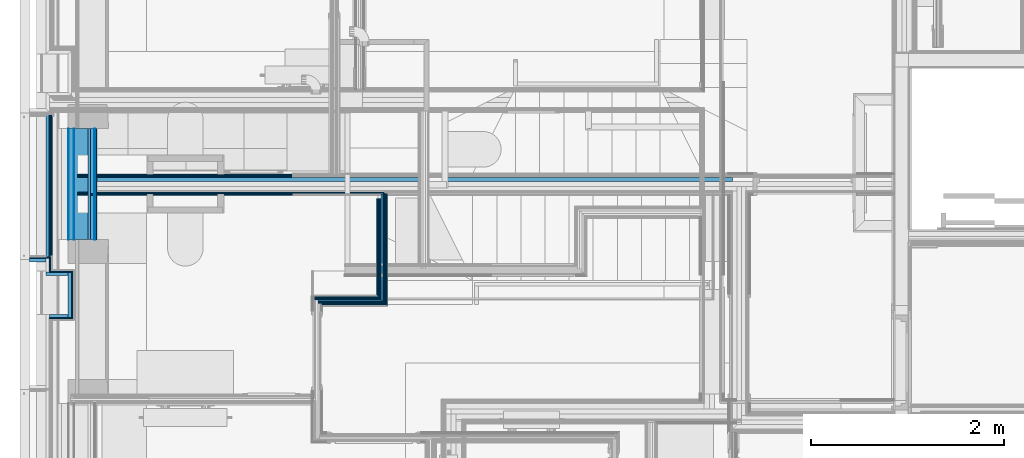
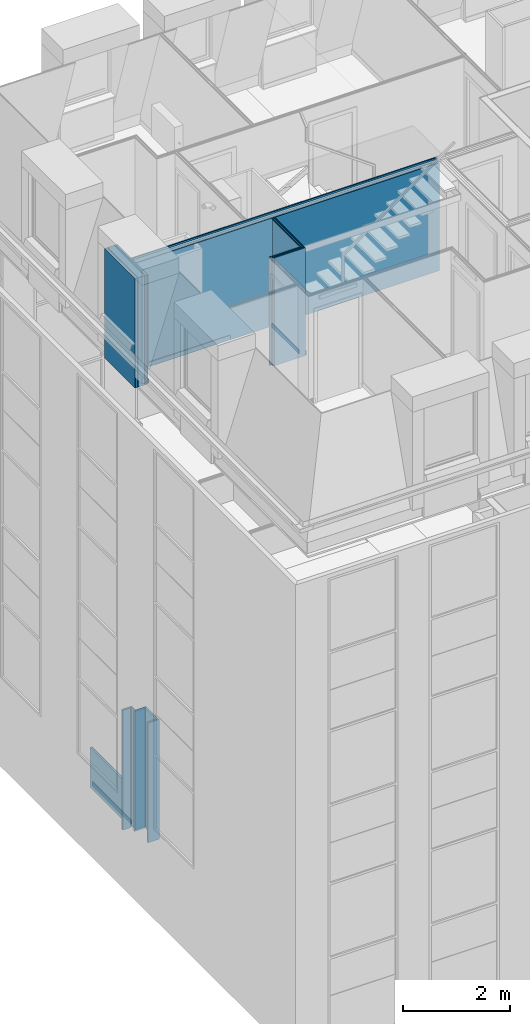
# One storey, part 17 of 169: 37 building element parts, 10 elements without a shape of their own.
"""IFC2X3 building model written with IfcOpenShell, lengths in metres."""

from ifc_helpers import new_model, entity, si_unit, converted_unit, derived_unit, money_unit, direction, frame, frame_2d, origin_with_axes, place, context, subcontext, project, spatial, polyline, rectangle, outline, extrude, material, type_object, element, aggregate, save


model = new_model("IFC2X3")

# Units and contexts
model_context = context("Model", 3, precision=1e-05, world=origin_with_axes(), true_north=direction((0.0, 1.0)))
body_context = subcontext(model_context, "Body", "Model", "MODEL_VIEW", scale=1.0)
ifc_project = project(units=[si_unit("LENGTHUNIT", "METRE"), si_unit("AREAUNIT", "SQUARE_METRE"), si_unit("VOLUMEUNIT", "CUBIC_METRE"), si_unit("ABSORBEDDOSEUNIT", "GRAY"), si_unit("AMOUNTOFSUBSTANCEUNIT", "MOLE"), si_unit("DOSEEQUIVALENTUNIT", "SIEVERT"), si_unit("ELECTRICCAPACITANCEUNIT", "FARAD"), si_unit("ELECTRICCHARGEUNIT", "COULOMB"), si_unit("ELECTRICCONDUCTANCEUNIT", "SIEMENS"), si_unit("ELECTRICCURRENTUNIT", "AMPERE"), si_unit("ELECTRICRESISTANCEUNIT", "OHM"), si_unit("ELECTRICVOLTAGEUNIT", "VOLT"), si_unit("ENERGYUNIT", "JOULE"), si_unit("FORCEUNIT", "NEWTON"), si_unit("FREQUENCYUNIT", "HERTZ"), si_unit("ILLUMINANCEUNIT", "LUX"), si_unit("INDUCTANCEUNIT", "HENRY"), si_unit("LUMINOUSFLUXUNIT", "LUMEN"), si_unit("LUMINOUSINTENSITYUNIT", "CANDELA"), si_unit("MAGNETICFLUXDENSITYUNIT", "TESLA"), si_unit("MAGNETICFLUXUNIT", "WEBER"), si_unit("MASSUNIT", "GRAM"), converted_unit("PLANEANGLEUNIT", "degree", entity("IfcReal", 0.0174532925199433), si_unit("PLANEANGLEUNIT", "RADIAN"), dimensions=[0, 0, 0, 0, 0, 0, 0]), si_unit("POWERUNIT", "WATT"), si_unit("PRESSUREUNIT", "PASCAL"), si_unit("RADIOACTIVITYUNIT", "BECQUEREL"), si_unit("SOLIDANGLEUNIT", "STERADIAN"), si_unit("THERMODYNAMICTEMPERATUREUNIT", "KELVIN"), si_unit("TIMEUNIT", "SECOND"), derived_unit("ACCELERATIONUNIT", [(si_unit("LENGTHUNIT", "METRE"), 1), (si_unit("TIMEUNIT", "SECOND"), -2)]), derived_unit("ANGULARVELOCITYUNIT", [(converted_unit("PLANEANGLEUNIT", "degree", entity("IfcReal", 0.0174532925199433), si_unit("PLANEANGLEUNIT", "RADIAN"), dimensions=[0, 0, 0, 0, 0, 0, 0]), 1), (si_unit("TIMEUNIT", "SECOND"), -1)]), derived_unit("CURVATUREUNIT", [(converted_unit("PLANEANGLEUNIT", "degree", entity("IfcReal", 0.0174532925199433), si_unit("PLANEANGLEUNIT", "RADIAN"), dimensions=[0, 0, 0, 0, 0, 0, 0]), 1), (si_unit("LENGTHUNIT", "METRE"), -1)]), derived_unit("DYNAMICVISCOSITYUNIT", [(si_unit("PRESSUREUNIT", "PASCAL"), 1), (si_unit("TIMEUNIT", "SECOND"), 1)]), derived_unit("HEATFLUXDENSITYUNIT", [(si_unit("POWERUNIT", "WATT"), 1), (si_unit("LENGTHUNIT", "METRE"), -2)]), derived_unit("HEATINGVALUEUNIT", [(si_unit("ENERGYUNIT", "JOULE"), 1), (si_unit("MASSUNIT", "GRAM"), -1)]), derived_unit("INTEGERCOUNTRATEUNIT", [(si_unit("TIMEUNIT", "SECOND"), -1)]), derived_unit("IONCONCENTRATIONUNIT", [(si_unit("MASSUNIT", "GRAM"), 1), (si_unit("VOLUMEUNIT", "CUBIC_METRE"), -1)]), derived_unit("ISOTHERMALMOISTURECAPACITYUNIT", [(si_unit("VOLUMEUNIT", "CUBIC_METRE"), 1), (si_unit("MASSUNIT", "GRAM"), -1)]), derived_unit("KINEMATICVISCOSITYUNIT", [(si_unit("AREAUNIT", "SQUARE_METRE"), 1), (si_unit("TIMEUNIT", "SECOND"), -1)]), derived_unit("LINEARFORCEUNIT", [(si_unit("FORCEUNIT", "NEWTON"), 1), (si_unit("LENGTHUNIT", "METRE"), -1)]), derived_unit("LINEARMOMENTUNIT", [(si_unit("FORCEUNIT", "NEWTON"), 1), (si_unit("LENGTHUNIT", "METRE"), -1)]), derived_unit("LINEARSTIFFNESSUNIT", [(si_unit("FORCEUNIT", "NEWTON"), 1), (si_unit("LENGTHUNIT", "METRE"), -1)]), derived_unit("LINEARVELOCITYUNIT", [(si_unit("LENGTHUNIT", "METRE"), 1), (si_unit("TIMEUNIT", "SECOND"), -1)]), derived_unit("LUMINOUSINTENSITYDISTRIBUTIONUNIT", [(si_unit("LUMINOUSINTENSITYUNIT", "CANDELA"), 1), (si_unit("LUMINOUSFLUXUNIT", "LUMEN"), -1)]), derived_unit("MASSDENSITYUNIT", [(si_unit("MASSUNIT", "GRAM"), 1), (si_unit("VOLUMEUNIT", "CUBIC_METRE"), -1)]), derived_unit("MASSFLOWRATEUNIT", [(si_unit("MASSUNIT", "GRAM"), 1), (si_unit("TIMEUNIT", "SECOND"), -1)]), derived_unit("MASSPERLENGTHUNIT", [(si_unit("MASSUNIT", "GRAM"), 1), (si_unit("LENGTHUNIT", "METRE"), -1)]), derived_unit("MODULUSOFELASTICITYUNIT", [(si_unit("FORCEUNIT", "NEWTON"), 1), (si_unit("AREAUNIT", "SQUARE_METRE"), -1)]), derived_unit("MODULUSOFLINEARSUBGRADEREACTIONUNIT", [(si_unit("FORCEUNIT", "NEWTON"), 1), (si_unit("LENGTHUNIT", "METRE"), -2)]), derived_unit("MODULUSOFROTATIONALSUBGRADEREACTIONUNIT", [(si_unit("FORCEUNIT", "NEWTON"), 1), (si_unit("LENGTHUNIT", "METRE"), 1)]), derived_unit("MODULUSOFSUBGRADEREACTIONUNIT", [(si_unit("FORCEUNIT", "NEWTON"), 1), (si_unit("VOLUMEUNIT", "CUBIC_METRE"), -1)]), derived_unit("MOISTUREDIFFUSIVITYUNIT", [(si_unit("VOLUMEUNIT", "CUBIC_METRE"), 1), (si_unit("TIMEUNIT", "SECOND"), -1)]), derived_unit("MOLECULARWEIGHTUNIT", [(si_unit("MASSUNIT", "GRAM"), 1), (si_unit("AMOUNTOFSUBSTANCEUNIT", "MOLE"), -1)]), derived_unit("PLANARFORCEUNIT", [(si_unit("FORCEUNIT", "NEWTON"), 1), (si_unit("LENGTHUNIT", "METRE"), -2)]), derived_unit("ROTATIONALFREQUENCYUNIT", [(si_unit("TIMEUNIT", "SECOND"), -1)]), derived_unit("ROTATIONALMASSUNIT", [(si_unit("MASSUNIT", "GRAM"), 1), (si_unit("LENGTHUNIT", "METRE"), 2)]), derived_unit("ROTATIONALSTIFFNESSUNIT", [(si_unit("FORCEUNIT", "NEWTON"), 1), (si_unit("LENGTHUNIT", "METRE"), 1), (converted_unit("PLANEANGLEUNIT", "degree", entity("IfcReal", 0.0174532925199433), si_unit("PLANEANGLEUNIT", "RADIAN"), dimensions=[0, 0, 0, 0, 0, 0, 0]), -1)]), derived_unit("SECTIONAREAINTEGRALUNIT", [(si_unit("LENGTHUNIT", "METRE"), 5)]), derived_unit("SECTIONMODULUSUNIT", [(si_unit("LENGTHUNIT", "METRE"), 3)]), derived_unit("SHEARMODULUSUNIT", [(si_unit("FORCEUNIT", "NEWTON"), 1), (si_unit("AREAUNIT", "SQUARE_METRE"), -1)]), derived_unit("SOUNDPOWERUNIT", [(si_unit("ENERGYUNIT", "JOULE"), 1), (si_unit("TIMEUNIT", "SECOND"), -1)]), derived_unit("SPECIFICHEATCAPACITYUNIT", [(si_unit("FORCEUNIT", "NEWTON"), 1), (si_unit("MASSUNIT", "GRAM"), -1), (si_unit("THERMODYNAMICTEMPERATUREUNIT", "KELVIN"), -1)]), derived_unit("TEMPERATUREGRADIENTUNIT", [(si_unit("THERMODYNAMICTEMPERATUREUNIT", "KELVIN"), 1), (si_unit("LENGTHUNIT", "METRE"), -1)]), derived_unit("THERMALADMITTANCEUNIT", [(si_unit("POWERUNIT", "WATT"), 1), (si_unit("AREAUNIT", "SQUARE_METRE"), -1), (si_unit("THERMODYNAMICTEMPERATUREUNIT", "KELVIN"), -1)]), derived_unit("THERMALCONDUCTANCEUNIT", [(si_unit("POWERUNIT", "WATT"), 1), (si_unit("LENGTHUNIT", "METRE"), -1), (si_unit("THERMODYNAMICTEMPERATUREUNIT", "KELVIN"), -1)]), derived_unit("THERMALEXPANSIONCOEFFICIENTUNIT", [(si_unit("THERMODYNAMICTEMPERATUREUNIT", "KELVIN"), -1)]), derived_unit("THERMALRESISTANCEUNIT", [(si_unit("AREAUNIT", "SQUARE_METRE"), 1), (si_unit("POWERUNIT", "WATT"), -1)]), derived_unit("THERMALTRANSMITTANCEUNIT", [(si_unit("POWERUNIT", "WATT"), 1), (si_unit("AREAUNIT", "SQUARE_METRE"), -1), (si_unit("THERMODYNAMICTEMPERATUREUNIT", "KELVIN"), -1)]), derived_unit("TORQUEUNIT", [(si_unit("FORCEUNIT", "NEWTON"), 1), (si_unit("LENGTHUNIT", "METRE"), 1)]), derived_unit("VAPORPERMEABILITYUNIT", [(si_unit("MASSUNIT", "GRAM"), 1), (si_unit("TIMEUNIT", "SECOND"), -1)]), derived_unit("VOLUMETRICFLOWRATEUNIT", [(si_unit("VOLUMEUNIT", "CUBIC_METRE"), 1), (si_unit("TIMEUNIT", "SECOND"), -1)]), derived_unit("WARPINGCONSTANTUNIT", [(si_unit("LENGTHUNIT", "METRE"), 6)]), derived_unit("WARPINGMOMENTUNIT", [(si_unit("FORCEUNIT", "NEWTON"), 1), (si_unit("LENGTHUNIT", "METRE"), 2)]), money_unit("GBP")], contexts=[model_context])

# Site, building, storey
site_placement = place(None, origin_with_axes())
site = spatial("IfcSite", under=ifc_project, at=site_placement, Name="Site", CompositionType="ELEMENT")
building_placement = place(site_placement, origin_with_axes())
building = spatial("IfcBuilding", under=site, at=building_placement, Name="Building01", CompositionType="ELEMENT")
storey_placement = place(building_placement, frame((0.0, 0.0, 5.15), z_axis=(0.0, 0.0, 1.0), x_axis=(1.0, 0.0, 0.0)))
storey = spatial("IfcBuildingStorey", under=building, at=storey_placement, Name="1F", CompositionType="ELEMENT", Elevation=5.15)

# Wall, building element parts
wall_type_1 = type_object("IfcWallType", Name="SHE_A-Walls_Type06d_ExternalWallInsulation_48mm", PredefinedType="NOTDEFINED")
wall_1_placement = place(storey_placement, frame((0.306, 8.17, 0.0), z_axis=(0.0, 0.0, 1.0), x_axis=(0.0, -1.0, 0.0)))
wall_1 = element("IfcWall", 1, at=wall_1_placement, inside=storey, type_object=wall_type_1, Name="6D", ObjectType="SHE_A-Walls_Type06d_ExternalWallInsulation_48mm")
ifc_material_1 = material(Name="A_BSUK_Insulation")
placement_1 = place(wall_1_placement, origin_with_axes())
building_element_part_1 = element("IfcBuildingElementPart", 2, at=placement_1, material=ifc_material_1, Name="1", context=body_context, shape_type="SweptSolid", body=[
    extrude(rectangle(XDim=1.47782, YDim=0.036, at=frame_2d((0.73891, -0.018), x_axis=(-1.0, 0.0))), origin_with_axes(), (0.0, 0.0, 1.0), 0.915),
])
ifc_material_2 = material(Name="A_BSUK_WallInternal_Finishes_Plasterboard")
building_element_part_2 = element("IfcBuildingElementPart", 3, at=placement_1, material=ifc_material_2, Name="2", context=body_context, shape_type="SweptSolid", body=[
    extrude(rectangle(XDim=1.47782, YDim=0.013, at=frame_2d((0.73891, 0.0055), x_axis=(-1.0, 0.0))), origin_with_axes(), (0.0, 0.0, 1.0), 0.915),
])
ifc_material_3 = material(Name="A_BSUK_Walls_Timber")
building_element_part_3 = element("IfcBuildingElementPart", 4, at=placement_1, material=ifc_material_3, Name="3", context=body_context, shape_type="SweptSolid", body=[
    extrude(rectangle(XDim=1.46282, YDim=0.015, at=frame_2d((0.73141, 0.0195), x_axis=(-1.0, 0.0))), frame((0.0, 0.0, 0.015), z_axis=(0.0, 0.0, 1.0), x_axis=(1.0, 0.0, 0.0)), (0.0, 0.0, 1.0), 0.1),
])
aggregate(wall_1, [building_element_part_1, building_element_part_2, building_element_part_3])

# Wall, building element part
wall_2_placement = place(storey_placement, frame((0.27, 6.68018, 0.0), z_axis=(0.0, 0.0, 1.0), x_axis=(0.0, -1.0, 0.0)))
wall_2 = element("IfcWall", 5, at=wall_2_placement, inside=storey, type_object=wall_type_1, Name="6D", ObjectType="SHE_A-Walls_Type06d_ExternalWallInsulation_48mm")
building_element_part_4_placement = place(wall_2_placement, origin_with_axes())
building_element_part_4 = element("IfcBuildingElementPart", 6, at=building_element_part_4_placement, material=ifc_material_2, Name="2", context=body_context, shape_type="SweptSolid", body=[
    extrude(outline(polyline([(0.13218, 0.048), (-0.012, 0.048), (0.001, 0.035), (0.13218, 0.035), (0.13218, 0.048)])), origin_with_axes(), (0.0, 0.0, 1.0), 2.74),
])
aggregate(wall_2, [building_element_part_4])

# Wall, building element parts
wall_3_placement = place(storey_placement, frame((0.27, 6.64418, 0.0), z_axis=(0.0, 0.0, 1.0), x_axis=(-1.0, 0.0, 0.0)))
wall_3 = element("IfcWall", 7, at=wall_3_placement, inside=storey, type_object=wall_type_1, Name="6D", ObjectType="SHE_A-Walls_Type06d_ExternalWallInsulation_48mm")
placement_2 = place(wall_3_placement, origin_with_axes())
building_element_part_5 = element("IfcBuildingElementPart", 8, at=placement_2, material=ifc_material_2, Name="2", context=body_context, shape_type="SweptSolid", body=[
    extrude(outline(polyline([(-0.035, -0.035), (-0.048, -0.048), (0.17, -0.048), (0.17, -0.035), (-0.035, -0.035)])), origin_with_axes(), (0.0, 0.0, 1.0), 2.74),
])
building_element_part_6 = element("IfcBuildingElementPart", 9, at=placement_2, material=ifc_material_1, Name="3", context=body_context, shape_type="SweptSolid", body=[
    extrude(rectangle(XDim=0.036, YDim=0.17, at=frame_2d((0.085, -0.018), x_axis=(0.0, -1.0))), origin_with_axes(), (0.0, 0.0, 1.0), 2.74),
])
aggregate(wall_3, [building_element_part_5, building_element_part_6])

wall_4_placement = place(storey_placement, frame((0.27, 6.5, 0.0), z_axis=(0.0, 0.0, 1.0), x_axis=(1.0, 0.0, 0.0)))
wall_4 = element("IfcWall", 10, at=wall_4_placement, inside=storey, type_object=wall_type_1, Name="6D", ObjectType="SHE_A-Walls_Type06d_ExternalWallInsulation_48mm")
placement_3 = place(wall_4_placement, origin_with_axes())
building_element_part_7 = element("IfcBuildingElementPart", 11, at=placement_3, material=ifc_material_1, Name="1", context=body_context, shape_type="SweptSolid", body=[
    extrude(rectangle(XDim=0.23, YDim=0.036, at=frame_2d((0.115, 0.018), x_axis=(-1.0, 0.0))), origin_with_axes(), (0.0, 0.0, 1.0), 2.74),
])
building_element_part_8 = element("IfcBuildingElementPart", 12, at=placement_3, material=ifc_material_2, Name="2", context=body_context, shape_type="SweptSolid", body=[
    extrude(outline(polyline([(0.278, 0.048), (0.035, 0.048), (0.035, 0.035), (0.265, 0.035), (0.278, 0.048)])), origin_with_axes(), (0.0, 0.0, 1.0), 2.74),
])
aggregate(wall_4, [building_element_part_7, building_element_part_8])

wall_5_placement = place(storey_placement, frame((0.5, 6.536, 0.0), z_axis=(0.0, 0.0, 1.0), x_axis=(0.0, -1.0, 0.0)))
wall_5 = element("IfcWall", 13, at=wall_5_placement, inside=storey, type_object=wall_type_1, Name="6D", ObjectType="SHE_A-Walls_Type06d_ExternalWallInsulation_48mm")
placement_4 = place(wall_5_placement, origin_with_axes())
building_element_part_9 = element("IfcBuildingElementPart", 14, at=placement_4, material=ifc_material_1, Name="1", context=body_context, shape_type="SweptSolid", body=[
    extrude(rectangle(XDim=0.472, YDim=0.036, at=frame_2d((0.236, 0.018), x_axis=(-1.0, 0.0))), origin_with_axes(), (0.0, 0.0, 1.0), 2.74),
])
building_element_part_10 = element("IfcBuildingElementPart", 15, at=placement_4, material=ifc_material_2, Name="2", context=body_context, shape_type="SweptSolid", body=[
    extrude(outline(polyline([(0.484, 0.048), (-0.012, 0.048), (0.001, 0.035), (0.471, 0.035), (0.484, 0.048)])), origin_with_axes(), (0.0, 0.0, 1.0), 2.74),
])
aggregate(wall_5, [building_element_part_9, building_element_part_10])

wall_6_placement = place(storey_placement, frame((0.5, 6.1, 0.0), z_axis=(0.0, 0.0, 1.0), x_axis=(-1.0, 0.0, 0.0)))
wall_6 = element("IfcWall", 16, at=wall_6_placement, inside=storey, type_object=wall_type_1, Name="6D", ObjectType="SHE_A-Walls_Type06d_ExternalWallInsulation_48mm")
placement_5 = place(wall_6_placement, origin_with_axes())
building_element_part_11 = element("IfcBuildingElementPart", 17, at=placement_5, material=ifc_material_1, Name="1", context=body_context, shape_type="SweptSolid", body=[
    extrude(rectangle(XDim=0.194, YDim=0.036, at=frame_2d((0.097, 0.018), x_axis=(-1.0, 0.0))), origin_with_axes(), (0.0, 0.0, 1.0), 2.74),
])
building_element_part_12 = element("IfcBuildingElementPart", 18, at=placement_5, material=ifc_material_2, Name="2", context=body_context, shape_type="SweptSolid", body=[
    extrude(outline(polyline([(0.195, 0.048), (-0.048, 0.048), (-0.035, 0.035), (0.195, 0.035), (0.195, 0.048)])), origin_with_axes(), (0.0, 0.0, 1.0), 2.74),
])
aggregate(wall_6, [building_element_part_11, building_element_part_12])

wall_type_2 = type_object("IfcWallType", Name="SHE_A-Walls_Type05b_Partition_80mm", PredefinedType="NOTDEFINED")
wall_7_placement = place(storey_placement, frame((3.767111, 7.349939, 9.83), z_axis=(0.0, 0.0, 1.0), x_axis=(0.0, -1.0, 0.0)))
wall_7 = element("IfcWall", 19, at=wall_7_placement, inside=storey, type_object=wall_type_2, Name="5B", ObjectType="SHE_A-Walls_Type05b_Partition_80mm")
placement_6 = place(wall_7_placement, origin_with_axes())
building_element_part_13 = element("IfcBuildingElementPart", 20, at=placement_6, material=ifc_material_3, Name="1", context=body_context, shape_type="SweptSolid", body=[
    extrude(outline(polyline([(1.07, -0.052), (0.05, -0.052), (0.05, -0.067), (1.055, -0.067), (1.07, -0.052)])), frame((0.0, 0.0, 0.015), z_axis=(0.0, 0.0, 1.0), x_axis=(1.0, 0.0, 0.0)), (0.0, 0.0, 1.0), 0.1),
])
building_element_part_14 = element("IfcBuildingElementPart", 21, at=placement_6, material=ifc_material_2, Name="2", context=body_context, shape_type="SweptSolid", body=[
    extrude(outline(polyline([(1.085, -0.037), (0.05, -0.037), (0.05, -0.052), (1.07, -0.052), (1.085, -0.037)])), origin_with_axes(), (0.0, 0.0, 1.0), 2.468),
])
ifc_material_4 = material(Name="Air Cavity")
building_element_part_15 = element("IfcBuildingElementPart", 22, at=placement_6, material=ifc_material_4, Name="3", context=body_context, shape_type="SweptSolid", body=[
    extrude(outline(polyline([(1.097, -0.025), (0.05, -0.025), (0.05, -0.037), (1.085, -0.037), (1.097, -0.025)])), origin_with_axes(), (0.0, 0.0, 1.0), 2.468),
])
building_element_part_16 = element("IfcBuildingElementPart", 23, at=placement_6, material=ifc_material_1, Name="4", context=body_context, shape_type="SweptSolid", body=[
    extrude(outline(polyline([(1.122, 0.0), (0.0, 0.0), (0.0, -0.025), (1.097, -0.025), (1.122, 0.0)])), origin_with_axes(), (0.0, 0.0, 1.0), 2.468),
])
building_element_part_17 = element("IfcBuildingElementPart", 24, at=placement_6, material=ifc_material_4, Name="5", context=body_context, shape_type="SweptSolid", body=[
    extrude(outline(polyline([(1.135, 0.013), (0.0, 0.013), (0.0, 0.0), (1.122, 0.0), (1.135, 0.013)])), origin_with_axes(), (0.0, 0.0, 1.0), 2.468),
])
building_element_part_18 = element("IfcBuildingElementPart", 25, at=placement_6, material=ifc_material_2, Name="6", context=body_context, shape_type="SweptSolid", body=[
    extrude(outline(polyline([(1.15, 0.028), (0.0, 0.028), (0.0, 0.013), (1.135, 0.013), (1.15, 0.028)])), origin_with_axes(), (0.0, 0.0, 1.0), 2.468),
])
building_element_part_19 = element("IfcBuildingElementPart", 26, at=placement_6, material=ifc_material_3, Name="7", context=body_context, shape_type="SweptSolid", body=[
    extrude(outline(polyline([(1.165, 0.043), (0.0, 0.043), (0.0, 0.028), (1.15, 0.028), (1.165, 0.043)])), frame((0.0, 0.0, 0.015), z_axis=(0.0, 0.0, 1.0), x_axis=(1.0, 0.0, 0.0)), (0.0, 0.0, 1.0), 0.1),
])
aggregate(wall_7, [building_element_part_13, building_element_part_14, building_element_part_15, building_element_part_16, building_element_part_17, building_element_part_18, building_element_part_19])

wall_8_placement = place(storey_placement, frame((3.767111, 6.227939, 9.83), z_axis=(0.0, 0.0, 1.0), x_axis=(-1.0, 0.0, 0.0)))
wall_8 = element("IfcWall", 27, at=wall_8_placement, inside=storey, type_object=wall_type_2, Name="5B", ObjectType="SHE_A-Walls_Type05b_Partition_80mm")
placement_7 = place(wall_8_placement, origin_with_axes())
building_element_part_20 = element("IfcBuildingElementPart", 28, at=placement_7, material=ifc_material_2, Name="2", context=body_context, shape_type="SweptSolid", body=[
    extrude(outline(polyline([(0.712135, -0.037), (0.037, -0.037), (0.052, -0.052), (0.712135, -0.052), (0.712135, -0.037)])), origin_with_axes(), (0.0, 0.0, 1.0), 2.468),
])
building_element_part_21 = element("IfcBuildingElementPart", 29, at=placement_7, material=ifc_material_4, Name="3", context=body_context, shape_type="SweptSolid", body=[
    extrude(outline(polyline([(0.712135, -0.025), (0.025, -0.025), (0.037, -0.037), (0.712135, -0.037), (0.712135, -0.025)])), origin_with_axes(), (0.0, 0.0, 1.0), 2.468),
])
building_element_part_22 = element("IfcBuildingElementPart", 30, at=placement_7, material=ifc_material_1, Name="4", context=body_context, shape_type="SweptSolid", body=[
    extrude(outline(polyline([(0.675135, 0.0), (0.0, 0.0), (0.025, -0.025), (0.675135, -0.025), (0.675135, 0.0)])), origin_with_axes(), (0.0, 0.0, 1.0), 2.468),
])
building_element_part_23 = element("IfcBuildingElementPart", 31, at=placement_7, material=ifc_material_4, Name="5", context=body_context, shape_type="SweptSolid", body=[
    extrude(outline(polyline([(0.675135, 0.013), (-0.013, 0.013), (0.0, 0.0), (0.675135, 0.0), (0.675135, 0.013)])), origin_with_axes(), (0.0, 0.0, 1.0), 2.468),
])
building_element_part_24 = element("IfcBuildingElementPart", 32, at=placement_7, material=ifc_material_2, Name="6", context=body_context, shape_type="SweptSolid", body=[
    extrude(outline(polyline([(0.647135, 0.028), (-0.028, 0.028), (-0.013, 0.013), (0.647135, 0.013), (0.647135, 0.028)])), origin_with_axes(), (0.0, 0.0, 1.0), 2.468),
])
aggregate(wall_8, [building_element_part_20, building_element_part_21, building_element_part_22, building_element_part_23, building_element_part_24])

wall_type_3 = type_object("IfcWallType", Name="SHE_A-Walls_Type01d_Partywall_200mm_twin", PredefinedType="NOTDEFINED")
wall_9_placement = place(storey_placement, frame((9.06, 7.425061, 9.83), z_axis=(0.0, 0.0, 1.0), x_axis=(-1.0, 0.0, 0.0)))
wall_9 = element("IfcWall", 33, at=wall_9_placement, inside=storey, type_object=wall_type_3, Name="1D", ObjectType="SHE_A-Walls_Type01d_Partywall_200mm_twin")
placement_8 = place(wall_9_placement, origin_with_axes())
building_element_part_25 = element("IfcBuildingElementPart", 34, at=placement_8, material=ifc_material_2, Name="5", context=body_context, shape_type="SweptSolid", body=[
    extrude(rectangle(XDim=6.775061, YDim=0.015, at=frame_2d((5.07253, -0.1175), x_axis=(-1.0, 0.0))), origin_with_axes(), (0.0, 0.0, 1.0), 2.468),
])
building_element_part_26 = element("IfcBuildingElementPart", 35, at=placement_8, material=ifc_material_2, Name="7", context=body_context, shape_type="SweptSolid", body=[
    extrude(rectangle(XDim=6.790061, YDim=0.015, at=frame_2d((5.06503, -0.1025), x_axis=(-1.0, 0.0))), origin_with_axes(), (0.0, 0.0, 1.0), 2.468),
])
building_element_part_27 = element("IfcBuildingElementPart", 36, at=placement_8, material=ifc_material_4, Name="8", context=body_context, shape_type="SweptSolid", body=[
    extrude(rectangle(XDim=6.790061, YDim=0.045, at=frame_2d((5.06503, -0.0725), x_axis=(-1.0, 0.0))), origin_with_axes(), (0.0, 0.0, 1.0), 2.468),
])
building_element_part_28 = element("IfcBuildingElementPart", 37, at=placement_8, material=ifc_material_2, Name="12", context=body_context, shape_type="SweptSolid", body=[
    extrude(rectangle(XDim=6.760061, YDim=0.015, at=frame_2d((5.08003, 0.0675), x_axis=(-1.0, 0.0))), origin_with_axes(), (0.0, 0.0, 1.0), 2.468),
])
building_element_part_29 = element("IfcBuildingElementPart", 38, at=placement_8, material=ifc_material_3, Name="14", context=body_context, shape_type="SweptSolid", body=[
    extrude(rectangle(XDim=2.225152, YDim=0.015, at=frame_2d((7.347485, 0.0825), x_axis=(-1.0, 0.0))), frame((0.0, 0.0, 0.015), z_axis=(0.0, 0.0, 1.0), x_axis=(1.0, 0.0, 0.0)), (0.0, 0.0, 1.0), 0.1),
])
aggregate(wall_9, [building_element_part_25, building_element_part_26, building_element_part_27, building_element_part_28, building_element_part_29])

wall_type_4 = type_object("IfcWallType", Name="SHE_A-Walls_Type06e_ExternalWallPenthouse_280mm", PredefinedType="NOTDEFINED")
wall_10_placement = place(storey_placement, frame((0.564939, 8.024915, 9.83), z_axis=(0.0, 0.0, 1.0), x_axis=(0.0, -1.0, 0.0)))
wall_10 = element("IfcWall", 39, at=wall_10_placement, inside=storey, type_object=wall_type_4, Name="6E", ObjectType="SHE_A-Walls_Type06e_ExternalWallPenthouse_280mm")
ifc_material_5 = material(Name="A_BSUK_WallInternal_Finishes_Metal")
placement_9 = place(wall_10_placement, origin_with_axes())
building_element_part_30 = element("IfcBuildingElementPart", 40, at=placement_9, material=ifc_material_5, Name="1", context=body_context, shape_type="SweptSolid", body=[
    extrude(rectangle(XDim=1.149951, YDim=0.005, at=frame_2d((0.574976, -0.0625), x_axis=(-1.0, 0.0))), origin_with_axes(), (0.0, 0.0, 1.0), 2.5),
])
building_element_part_31 = element("IfcBuildingElementPart", 41, at=placement_9, material=ifc_material_4, Name="2", context=body_context, shape_type="SweptSolid", body=[
    extrude(rectangle(XDim=1.149951, YDim=0.05, at=frame_2d((0.574976, -0.035), x_axis=(-1.0, 0.0))), origin_with_axes(), (0.0, 0.0, 1.0), 2.5),
])
building_element_part_32 = element("IfcBuildingElementPart", 42, at=placement_9, material=ifc_material_3, Name="3", context=body_context, shape_type="SweptSolid", body=[
    extrude(rectangle(XDim=1.149951, YDim=0.01, at=frame_2d((0.574976, -0.005), x_axis=(-1.0, 0.0))), origin_with_axes(), (0.0, 0.0, 1.0), 2.5),
])
building_element_part_33 = element("IfcBuildingElementPart", 43, at=placement_9, material=ifc_material_1, Name="4", context=body_context, shape_type="SweptSolid", body=[
    extrude(rectangle(XDim=1.149951, YDim=0.14, at=frame_2d((0.574976, 0.07), x_axis=(-1.0, 0.0))), origin_with_axes(), (0.0, 0.0, 1.0), 2.5),
])
building_element_part_34 = element("IfcBuildingElementPart", 44, at=placement_9, material=ifc_material_4, Name="5", context=body_context, shape_type="SweptSolid", body=[
    extrude(rectangle(XDim=1.149951, YDim=0.025, at=frame_2d((0.574976, 0.1525), x_axis=(-1.0, 0.0))), origin_with_axes(), (0.0, 0.0, 1.0), 2.5),
])
building_element_part_35 = element("IfcBuildingElementPart", 45, at=placement_9, material=ifc_material_1, Name="6", context=body_context, shape_type="SweptSolid", body=[
    extrude(rectangle(XDim=1.149951, YDim=0.04, at=frame_2d((0.574976, 0.185), x_axis=(-1.0, 0.0))), origin_with_axes(), (0.0, 0.0, 1.0), 2.5),
])
building_element_part_36 = element("IfcBuildingElementPart", 46, at=placement_9, material=ifc_material_2, Name="7", context=body_context, shape_type="SweptSolid", body=[
    extrude(rectangle(XDim=1.149951, YDim=0.01, at=frame_2d((0.574976, 0.21), x_axis=(-1.0, 0.0))), origin_with_axes(), (0.0, 0.0, 1.0), 2.5),
])
building_element_part_37 = element("IfcBuildingElementPart", 47, at=placement_9, material=ifc_material_3, Name="8", context=body_context, shape_type="SweptSolid", body=[
    extrude(rectangle(XDim=1.149951, YDim=0.015, at=frame_2d((0.574976, 0.2225), x_axis=(-1.0, 0.0))), frame((0.0, 0.0, 0.015), z_axis=(0.0, 0.0, 1.0), x_axis=(1.0, 0.0, 0.0)), (0.0, 0.0, 1.0), 0.1),
])
aggregate(wall_10, [building_element_part_30, building_element_part_31, building_element_part_32, building_element_part_33, building_element_part_34, building_element_part_35, building_element_part_36, building_element_part_37])

save(model, "model.ifc")
